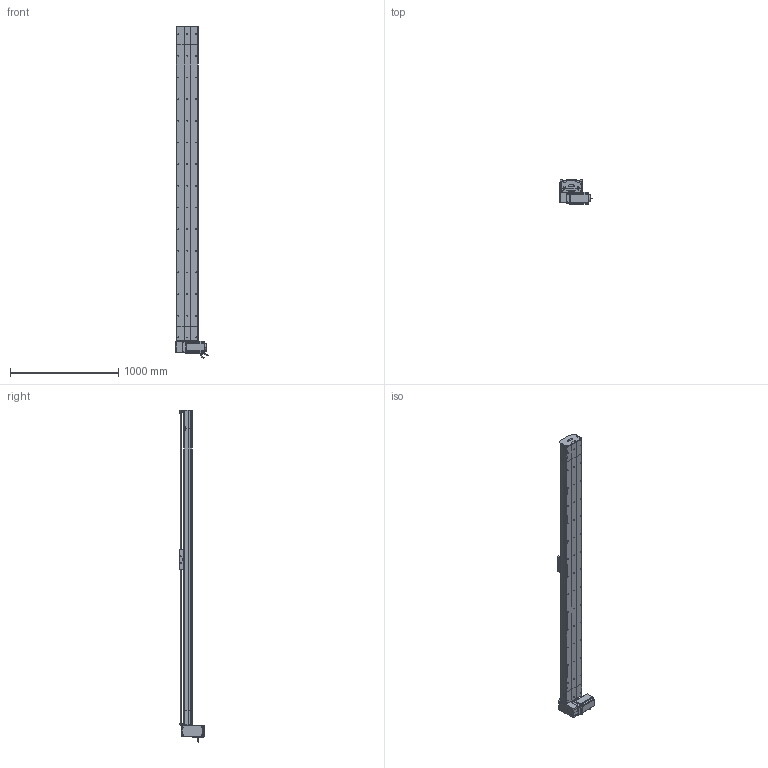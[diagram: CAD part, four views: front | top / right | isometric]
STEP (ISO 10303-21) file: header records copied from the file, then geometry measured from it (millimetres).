
FILE_DESCRIPTION (( 'STEP AP214' ), '1' );
FILE_NAME ('D20 TBH RU S2600.STEP', '2010-07-01T08:11:22', ( 'Conseil Régional Haute-Normandie' ), ( 'Conseil Régional Haute-Normandie' ), 'SwSTEP 2.0', 'SolidWorks 2010', '' );
FILE_SCHEMA (( 'AUTOMOTIVE_DESIGN' ));
Length unit declared in the file: millimetre
Products named in the file (40): Chariot D20B; vis M5 L5_Default; cache D20_Default; cache arbre D20_Default; plaque de  bout head D20B RU_Default; poulie head D20_Default; guide D20B; corp D20 S2600_Default; Course B L2600_Default; couvercle head D20_Default; rail head D20; couvercle D20 S2600_Default; corpl head D20_Default; head RU_Default; rail + couroie  D20 S2600; tete d''axe poulie D20B; corpl tail D20_Default; tail D20_Default; couroie_Default; rail tail D20; vis M5 L8 90°_Default; poulie tail D20_Default; plaque de  bout tail D20_Default; couvercle tail D20_Default; Couroie tail D20_Default; vis M5 L12_Default; vis M8 L12_Default; clavette; Conecteur_Default; Conecteur2_Default; codeur 110BLDC170A-630x; corps 110BLDC170A-630x; Plaque racord D20LH_Default; Renvoi RU D20_Default; vis M5 L25_Default; avant 110BLDC170A-630x; Moteur motionking 110BLDC170A-640x; vis M5 L70_Default; chariot D20B_Default; D20 TBH RU S2600
Assembly tree (71 placements, depth 4):
  D20 TBH RU S2600
    Course B L2600_Default
      couvercle D20 S2600_Default
      corp D20 S2600_Default
      rail + couroie  D20 S2600
    chariot D20B_Default
      vis M5 L12_Default  x4
      Chariot D20B
      guide D20B  x2
    head RU_Default
      couvercle head D20_Default
      corpl head D20_Default
      Plaque racord D20LH_Default
      vis M5 L12_Default  x10
      vis M5 L70_Default  x4
      vis M5 L25_Default  x2
      vis M5 L5_Default  x4
      cache D20_Default  x2
      cache arbre D20_Default
      poulie head D20_Default
      Moteur motionking 110BLDC170A-640x
        codeur 110BLDC170A-630x
        avant 110BLDC170A-630x
        Conecteur_Default
        clavette
        corps 110BLDC170A-630x
        Conecteur2_Default
      Renvoi RU D20_Default
      vis M8 L12_Default  x4
      plaque de  bout head D20B RU_Default
      couroie_Default
      rail head D20
    tail D20_Default
      vis M5 L12_Default  x4
      plaque de  bout tail D20_Default
      corpl tail D20_Default
      Couroie tail D20_Default
      couvercle tail D20_Default
      poulie tail D20_Default
      vis M5 L8 90°_Default  x2
      tete d''axe poulie D20B
      vis M5 L25_Default  x2
      rail tail D20
Bounding box: 304.2 x 223.2 x 3065 mm (x, y, z)
Volume: 24349851.9 mm3; surface area: 5962784.1 mm2
Topology: 95 solids, 95 shells, 2828 faces, 7236 edges, 4675 vertices
Faces by surface type: plane 1635, cylinder 869, bspline 136, cone 99, torus 89
Entity records: 90825 total; most frequent: CARTESIAN_POINT 29413, ORIENTED_EDGE 11128, DIRECTION 10469, EDGE_CURVE 5564, VERTEX_POINT 3661, VECTOR 3547, LINE 3547, AXIS2_PLACEMENT_3D 3461
